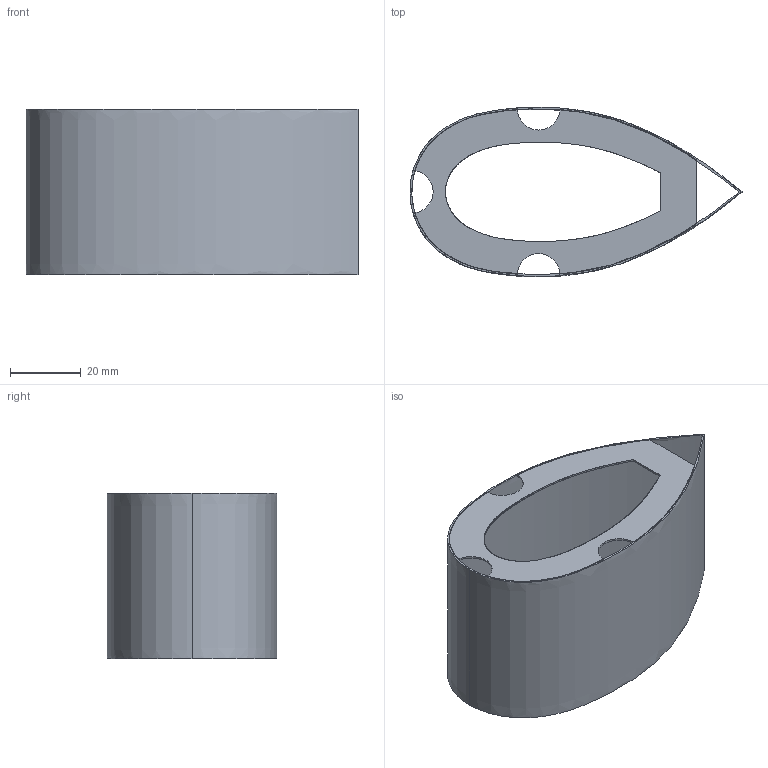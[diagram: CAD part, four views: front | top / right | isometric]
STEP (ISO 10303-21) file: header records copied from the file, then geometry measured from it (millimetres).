
FILE_DESCRIPTION(('STEP AP214'),'1');
FILE_NAME('tmp0.step','2026-06-13T20:50:01',(' '),(' '),'Spatial InterOp 3D',' ',' ');
FILE_SCHEMA(('AUTOMOTIVE_DESIGN { 1 0 10303 214 1 1 1 1 }'));
Length unit declared in the file: millimetre
Products named in the file (1): 1
Bounding box: 94.01 x 48 x 47 mm (x, y, z)
Volume: 5894.7 mm3; surface area: 24532.5 mm2
Topology: 2 solids, 2 shells, 2276 faces, 6816 edges, 4544 vertices
Faces by surface type: plane 2266, cylinder 6, extrusion 4
Entity records: 75676 total; most frequent: CARTESIAN_POINT 14253, ORIENTED_EDGE 13632, DIRECTION 11372, EDGE_CURVE 6816, VECTOR 6800, LINE 6796, VERTEX_POINT 4544, AXIS2_PLACEMENT_3D 2286
